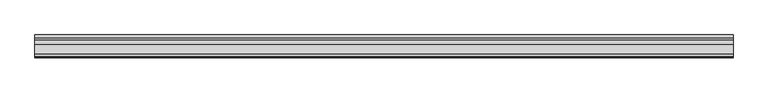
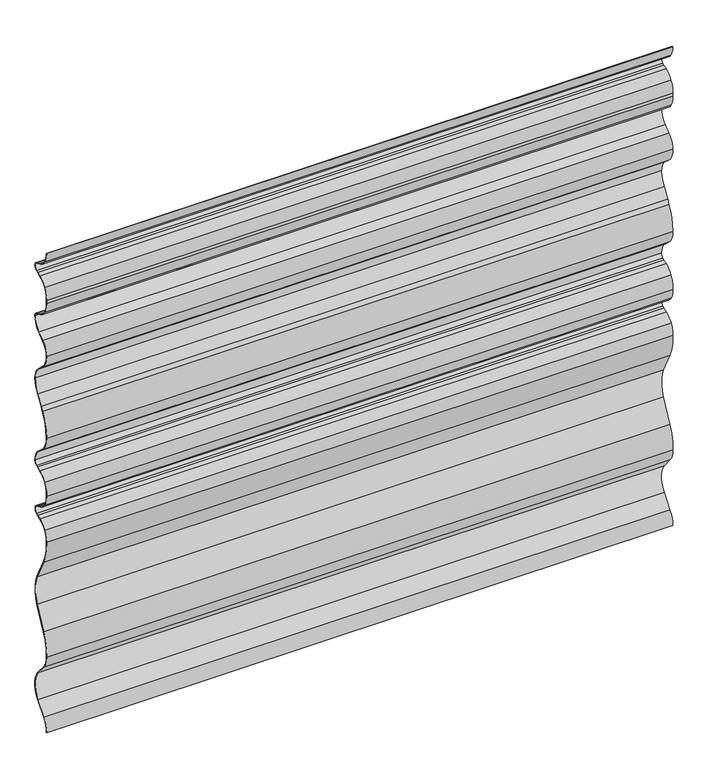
"""IFC4 building model written with IfcOpenShell, lengths in millimetres: plate geometry, Ritmica Horizontal 928 : Ritmica Horizontal 928."""

from ifc_helpers import new_model, si_unit, frame, origin, place, context, project, spatial, polyline, circle_curve, source, transform, mapped, element, save
from ifc_brep_helpers import plane_surface, cylinder_surface, revolved_surface, advanced_brep


def plate_133e5fcb(model_context):
    return source(origin(), model_context, "Body", "AdvancedBrep", [
        advanced_brep(
        [(-573.3333333, 6.5092615, 908.0620129), (-573.3333333, 21.2621067, 895.6153968), (-573.3333333, 28.45755, 892.7364297), (-573.3333333, 31.9226364, 891.0770661), (-573.3333333, 31.9284533, 875.0954695), (-573.3333333, 28.4645758, 873.4335839), (-573.3333333, 21.2712303, 870.5493796), (-573.3333333, 6.5274495, 858.0920274), (-573.3333333, 0.7421798, 836.9983174), (-573.3333333, 0.7421798, 831.6596456), (-573.3333333, 6.5447465, 810.5701527), (-573.3333333, 21.2975918, 798.1235366), (-573.3333333, 28.493035, 795.2445695), (-573.3333333, 31.9581214, 793.5852059), (-573.3333333, 36.9921573, 785.5962388), (-573.3333333, 24.9656186, 760.6206134), (-573.3333333, 12.9828956, 751.0704574), (-573.3333333, 1.0048783, 728.5919745), (-573.3333333, 13.0090533, 701.127971), (-573.3333333, 24.9992939, 690.0241978), (-573.3333333, 37.0440106, 665.0573339), (-573.3333333, 28.6299997, 638.3240963), (-573.3333333, 17.4991449, 620.9910926), (-573.3333333, 13.1043036, 613.5575548), (-573.3333333, 0.921776, 569.3793833), (-573.3333333, 12.9259511, 541.9153798), (-573.3333333, 24.9161915, 530.8116067), (-573.3333333, 36.9609087, 505.8415328), (-573.3333333, 31.9326896, 497.8521133), (-573.3333333, 28.4688119, 496.1902275), (-573.3333333, 21.2754341, 493.3060102), (-573.3333333, 6.5316868, 480.8486726), (-573.3333333, 0.8337564, 457.0856569), (-573.3333333, 6.3430179, 437.5469103), (-573.3333333, 21.0958632, 425.1002943), (-573.3333333, 28.2913064, 422.2213272), (-573.3333333, 31.7563928, 420.5619636), (-573.3333333, 31.7622098, 404.580367), (-573.3333333, 28.2983323, 402.9184814), (-573.3333333, 21.1049867, 400.034277), (-573.3333333, 6.361206, 387.5769248), (-573.3333333, 0.8661693, 368.0341733), (-573.3333333, 10.0476711, 324.2892209), (-573.3333333, 30.4443377, 283.7581494), (-573.3333333, 30.4639577, 229.8542794), (-573.3333333, 10.0968014, 189.3083707), (-573.3333333, 0.9471466, 145.5567461), (-573.3333333, 9.5590077, 121.7925982), (-573.3333333, 28.254799, 99.3683726), (-573.3333333, 28.274038, 46.5109184), (-573.3333333, 9.5945757, 23.7707747), (-573.3333333, 1.0000163, 0.0), (-573.3333333, 1.63e-05, 0.0), (-573.3333333, 8.826039, 24.4105804), (-573.3333333, 27.4885473, 47.1303588), (-573.3333333, 27.4697594, 98.7483605), (-573.3333333, 8.790937, 121.1522332), (-573.3333333, -0.0528427, 145.5386154), (-573.3333333, 9.1993025, 189.7494732), (-573.3333333, 29.5703625, 230.3031531), (-573.3333333, 29.5510695, 283.3086253), (-573.3333333, 9.1504935, 323.8474651), (-573.3333333, -0.133833, 368.0515751), (-573.3333333, 5.5079347, 388.0983921), (-573.3333333, 20.7330524, 400.9625361), (-573.3333333, 27.895533, 403.834365), (-573.3333333, 31.3296428, 405.4819688), (-573.3333333, 31.3244823, 419.6600471), (-573.3333333, 27.889174, 421.3051505), (-573.3333333, 20.7246046, 424.1717647), (-573.3333333, 5.4901265, 437.024822), (-573.3333333, -0.1662181, 457.0529178), (-573.3333333, 5.6750593, 481.3646468), (-573.3333333, 20.9034647, 494.2342551), (-573.3333333, 28.0660127, 497.1061111), (-573.3333333, 31.5001226, 498.7537151), (-573.3333333, 35.9609087, 505.841531), (-573.3333333, 24.2645169, 530.052163), (-573.3333333, 12.2464871, 541.1816709), (-573.3333333, -0.0782183, 569.3680226), (-573.3333333, 12.2502128, 614.0778463), (-573.3333333, 16.6477304, 621.5159109), (-573.3333333, 27.7982686, 638.8795656), (-573.3333333, 36.04401, 665.0587755), (-573.3333333, 24.3475224, 689.2648438), (-573.3333333, 12.3295893, 700.3942621), (-573.3333333, 0.0048783, 728.5916105), (-573.3333333, 12.391292, 751.8777021), (-573.3333333, 24.342358, 761.4026277), (-573.3333333, 35.9921573, 785.5958749), (-573.3333333, 31.5262109, 792.6832895), (-573.3333333, 28.0909026, 794.3283929), (-573.3333333, 20.9248539, 797.1955989), (-573.3333333, 5.6893168, 810.0521734), (-573.3333333, -0.2558769, 831.6592816), (-573.3333333, -0.2578202, 836.9981365), (-573.3333333, 5.6708241, 858.6080051), (-573.3333333, 20.8992959, 871.4776387), (-573.3333333, 28.0617766, 874.3494676), (-573.3333333, 31.4958863, 875.9970713), (-573.3333333, 31.4907258, 890.1751497), (-573.3333333, 28.0554176, 891.8202531), (-573.3333333, 20.8908482, 894.6868673), (-573.3333333, 5.6563701, 907.5399245), (-573.3333333, 0.0, 927.600395), (-573.3333333, 1.0000001, 927.600395), (573.3333333, 6.5092615, 908.0620129), (573.3333333, 1.0000001, 927.600395), (573.3333333, 0.0, 927.600395), (573.3333333, 5.6563701, 907.5399245), (573.3333333, 20.8908482, 894.6868673), (573.3333333, 28.0554176, 891.8202531), (573.3333333, 31.4907258, 890.1751497), (573.3333333, 31.4958863, 875.9970713), (573.3333333, 28.0617766, 874.3494676), (573.3333333, 20.8992959, 871.4776387), (573.3333333, 5.6708241, 858.6080051), (573.3333333, -0.2578202, 836.9981365), (573.3333333, -0.2578202, 831.6596456), (573.3333333, 5.6893168, 810.0521734), (573.3333333, 20.9248539, 797.1955989), (573.3333333, 28.0909026, 794.3283929), (573.3333333, 31.5262109, 792.6832895), (573.3333333, 35.9921573, 785.5958749), (573.3333333, 24.342358, 761.4026277), (573.3333333, 12.391292, 751.8777021), (573.3333333, 0.0048783, 728.5916105), (573.3333333, 12.3295893, 700.3942621), (573.3333333, 24.3475224, 689.2648438), (573.3333333, 36.04401, 665.0587755), (573.3333333, 27.7982686, 638.8795656), (573.3333333, 16.6477304, 621.5159109), (573.3333333, 12.2502128, 614.0778463), (573.3333333, -0.0782183, 569.3680226), (573.3333333, 12.2464871, 541.1816709), (573.3333333, 24.2645169, 530.052163), (573.3333333, 35.9609087, 505.841531), (573.3333333, 31.5001226, 498.7537151), (573.3333333, 28.0660127, 497.1061111), (573.3333333, 20.9034647, 494.2342551), (573.3333333, 5.6750593, 481.3646468), (573.3333333, -0.1662181, 457.0529178), (573.3333333, 5.4901265, 437.024822), (573.3333333, 20.7246046, 424.1717647), (573.3333333, 27.889174, 421.3051505), (573.3333333, 31.3244823, 419.6600471), (573.3333333, 31.3296428, 405.4819688), (573.3333333, 27.895533, 403.834365), (573.3333333, 20.7330524, 400.9625361), (573.3333333, 5.5079347, 388.0983921), (573.3333333, -0.133833, 368.0515751), (573.3333333, 9.1504935, 323.8474651), (573.3333333, 29.5510695, 283.3086253), (573.3333333, 29.5703625, 230.3031531), (573.3333333, 9.1993025, 189.7494732), (573.3333333, -0.0528427, 145.5386154), (573.3333333, 8.790937, 121.1522332), (573.3333333, 27.4697594, 98.7483605), (573.3333333, 27.4885473, 47.1303588), (573.3333333, 8.826039, 24.4105804), (573.3333333, 1.63e-05, 0.0), (573.3333333, 1.0000163, 0.0), (573.3333333, 9.5945757, 23.7707747), (573.3333333, 28.274038, 46.5109184), (573.3333333, 28.254799, 99.3683726), (573.3333333, 9.5590077, 121.7925982), (573.3333333, 0.9471466, 145.5567461), (573.3333333, 10.0968014, 189.3083707), (573.3333333, 30.4639577, 229.8542794), (573.3333333, 30.4443377, 283.7581494), (573.3333333, 10.0476711, 324.2892209), (573.3333333, 0.8661693, 368.0341733), (573.3333333, 6.361206, 387.5769248), (573.3333333, 21.1049867, 400.034277), (573.3333333, 28.2983323, 402.9184814), (573.3333333, 31.7622098, 404.580367), (573.3333333, 31.7563928, 420.5619636), (573.3333333, 28.2913064, 422.2213272), (573.3333333, 21.0958632, 425.1002943), (573.3333333, 6.3430179, 437.5469103), (573.3333333, 0.8337564, 457.0856569), (573.3333333, 6.5316868, 480.8486726), (573.3333333, 21.2754341, 493.3060102), (573.3333333, 28.4688119, 496.1902275), (573.3333333, 31.9326896, 497.8521133), (573.3333333, 36.9609087, 505.8415328), (573.3333333, 24.9161915, 530.8116067), (573.3333333, 12.9259511, 541.9153798), (573.3333333, 0.921776, 569.3793833), (573.3333333, 13.1043036, 613.5575548), (573.3333333, 17.4991449, 620.9910926), (573.3333333, 28.6299997, 638.3240963), (573.3333333, 37.0440106, 665.0573339), (573.3333333, 24.9992939, 690.0241978), (573.3333333, 13.0090533, 701.127971), (573.3333333, 1.0048783, 728.5919745), (573.3333333, 12.9828956, 751.0704574), (573.3333333, 24.9656186, 760.6206134), (573.3333333, 36.9921573, 785.5962388), (573.3333333, 31.9581214, 793.5852059), (573.3333333, 28.493035, 795.2445695), (573.3333333, 21.2975918, 798.1235366), (573.3333333, 6.5447465, 810.5701527), (573.3333333, 0.744123, 831.6596456), (573.3333333, 0.7421798, 836.9983174), (573.3333333, 6.5274495, 858.0920274), (573.3333333, 21.2712303, 870.5493796), (573.3333333, 28.4645758, 873.4335839), (573.3333333, 31.9284533, 875.0954695), (573.3333333, 31.9226364, 891.0770661), (573.3333333, 28.45755, 892.7364297), (573.3333333, 21.2621067, 895.6153968)],
        [
            (0, 1, circle_curve(frame((-573.3333333, 32.6219637, 924.0466233), z_axis=(1.0, 0.0, 0.0), x_axis=(0.0, 0.0, 1.0)), 30.6166783)),
            (1, 2),
            (2, 3),
            (3, 4, circle_curve(frame((-573.3333333, 28.0953282, 883.0848737), z_axis=(-1.0, 0.0, 0.0), x_axis=(0.0, 0.0, 1.0)), 8.8613445)),
            (4, 5),
            (5, 6),
            (6, 7, circle_curve(frame((-573.3333333, 32.651781, 842.1264302), z_axis=(1.0, 0.0, 0.0), x_axis=(0.0, 0.0, 1.0)), 30.6166783)),
            (7, 8, circle_curve(frame((-573.3333333, 42.034972, 837.0133472), z_axis=(1.0, 0.0, 0.0), x_axis=(0.0, 0.0, 1.0)), 41.2927949)),
            (8, 9),
            (9, 10, circle_curve(frame((-573.3333333, 42.0369151, 831.6746753), z_axis=(1.0, 0.0, 0.0), x_axis=(0.0, 0.0, 1.0)), 41.2927949)),
            (10, 11, circle_curve(frame((-573.3333333, 32.8606059, 826.7955631), z_axis=(1.0, 0.0, 0.0), x_axis=(0.0, 0.0, 1.0)), 30.9158276)),
            (11, 12),
            (12, 13),
            (13, 14, circle_curve(frame((-573.3333333, 28.1308133, 785.5930135), z_axis=(-1.0, 0.0, 0.0), x_axis=(0.0, 0.0, 1.0)), 8.8613445)),
            (14, 15, circle_curve(frame((-573.3333333, 5.0694602, 785.5846196), z_axis=(-1.0, 0.0, 0.0), x_axis=(0.0, 0.0, 1.0)), 31.9226992)),
            (15, 16),
            (16, 17, circle_curve(frame((-573.3333333, 28.0674647, 728.6018247), z_axis=(1.0, 0.0, 0.0), x_axis=(0.0, 0.0, 1.0)), 27.0625882)),
            (17, 18, circle_curve(frame((-573.3333333, 38.4552002, 728.6056057), z_axis=(1.0, 0.0, 0.0), x_axis=(0.0, 0.0, 1.0)), 37.4503244)),
            (18, 19),
            (19, 20, circle_curve(frame((-573.3333333, 5.1213136, 665.0457146), z_axis=(-1.0, 0.0, 0.0), x_axis=(0.0, 0.0, 1.0)), 31.9226992)),
            (20, 21, circle_curve(frame((-573.3333333, -10.1198118, 665.2109304), z_axis=(-1.0, 0.0, 0.0), x_axis=(0.0, 0.0, 1.0)), 47.1640725)),
            (21, 22),
            (22, 23),
            (23, 24, circle_curve(frame((-573.3333333, 80.6713796, 571.1565204), z_axis=(1.0, 0.0, 0.0), x_axis=(0.0, 0.0, 1.0)), 79.769402)),
            (24, 25, circle_curve(frame((-573.3333333, 38.372098, 569.3930144), z_axis=(1.0, 0.0, 0.0), x_axis=(0.0, 0.0, 1.0)), 37.4503244)),
            (25, 26),
            (26, 27, circle_curve(frame((-573.3333333, 5.0555271, 505.8414768), z_axis=(-1.0, 0.0, 0.0), x_axis=(0.0, 0.0, 1.0)), 31.9053816)),
            (27, 28, circle_curve(frame((-573.3333333, 28.0995643, 505.8415173), z_axis=(-1.0, 0.0, 0.0), x_axis=(0.0, 0.0, 1.0)), 8.8613444)),
            (28, 29),
            (29, 30),
            (30, 31, circle_curve(frame((-573.3333333, 32.6560172, 464.8830737), z_axis=(1.0, 0.0, 0.0), x_axis=(0.0, 0.0, 1.0)), 30.6166783)),
            (31, 32, circle_curve(frame((-573.3333333, 42.0392082, 459.7699907), z_axis=(1.0, 0.0, 0.0), x_axis=(0.0, 0.0, 1.0)), 41.2927948)),
            (32, 33, circle_curve(frame((-573.3333333, 38.2840783, 457.0992876), z_axis=(1.0, 0.0, 0.0), x_axis=(0.0, 0.0, 1.0)), 37.4503244)),
            (33, 34, circle_curve(frame((-573.3333333, 32.4557202, 453.5315208), z_axis=(1.0, 0.0, 0.0), x_axis=(0.0, 0.0, 1.0)), 30.6166783)),
            (34, 35),
            (35, 36),
            (36, 37, circle_curve(frame((-573.3333333, 27.9290847, 412.5697711), z_axis=(-1.0, 0.0, 0.0), x_axis=(0.0, 0.0, 1.0)), 8.8613445)),
            (37, 38),
            (38, 39),
            (39, 40, circle_curve(frame((-573.3333333, 32.4855375, 371.6113276), z_axis=(1.0, 0.0, 0.0), x_axis=(0.0, 0.0, 1.0)), 30.6166783)),
            (40, 41, circle_curve(frame((-573.3333333, 38.3164913, 368.0478045), z_axis=(1.0, 0.0, 0.0), x_axis=(0.0, 0.0, 1.0)), 37.4503244)),
            (41, 42, circle_curve(frame((-573.3333333, 94.1023268, 364.7672254), z_axis=(1.0, 0.0, 0.0), x_axis=(0.0, 0.0, 1.0)), 93.293376)),
            (42, 43),
            (43, 44, circle_curve(frame((-573.3333333, -23.1517542, 256.7867029), z_axis=(-1.0, 0.0, 0.0), x_axis=(0.0, 0.0, 1.0)), 60.0)),
            (44, 45),
            (45, 46, circle_curve(frame((-573.3333333, 94.1809012, 148.8915653), z_axis=(1.0, 0.0, 0.0), x_axis=(0.0, 0.0, 1.0)), 93.293376)),
            (46, 47, circle_curve(frame((-573.3333333, 38.0785645, 145.5702612), z_axis=(1.0, 0.0, 0.0), x_axis=(0.0, 0.0, 1.0)), 37.1314203)),
            (47, 48),
            (48, 49, circle_curve(frame((-573.3333333, -7.0897542, 72.9267773), z_axis=(-1.0, 0.0, 0.0), x_axis=(0.0, 0.0, 1.0)), 44.1406321)),
            (49, 50),
            (50, 51, circle_curve(frame((-573.3333333, 38.131434, 0.0138791), z_axis=(1.0, 0.0, 0.0), x_axis=(0.0, 0.0, 1.0)), 37.1314203)),
            (51, 52),
            (52, 53, circle_curve(frame((-573.3333333, 38.131434, 0.0138791), z_axis=(-1.0, 0.0, 0.0), x_axis=(0.0, 0.0, 1.0)), 38.1314203)),
            (53, 54),
            (54, 55, circle_curve(frame((-573.3333333, -7.0897542, 72.9267773), z_axis=(1.0, 0.0, 0.0), x_axis=(0.0, 0.0, 1.0)), 43.1406321)),
            (55, 56),
            (56, 57, circle_curve(frame((-573.3333333, 38.0785645, 145.5702612), z_axis=(-1.0, 0.0, 0.0), x_axis=(0.0, 0.0, 1.0)), 38.1314203)),
            (57, 58, circle_curve(frame((-573.3333333, 94.1809012, 148.8915653), z_axis=(-1.0, 0.0, 0.0), x_axis=(0.0, 0.0, 1.0)), 94.293376)),
            (58, 59),
            (59, 60, circle_curve(frame((-573.3333333, -23.1517542, 256.7867029), z_axis=(1.0, 0.0, 0.0), x_axis=(0.0, 0.0, 1.0)), 59.0)),
            (60, 61),
            (61, 62, circle_curve(frame((-573.3333333, 94.1023268, 364.7672254), z_axis=(-1.0, 0.0, 0.0), x_axis=(0.0, 0.0, 1.0)), 94.293376)),
            (62, 63, circle_curve(frame((-573.3333333, 38.3164913, 368.0478045), z_axis=(-1.0, 0.0, 0.0), x_axis=(0.0, 0.0, 1.0)), 38.4503244)),
            (63, 64, circle_curve(frame((-573.3333333, 32.4855375, 371.6113276), z_axis=(-1.0, 0.0, 0.0), x_axis=(0.0, 0.0, 1.0)), 31.6166783)),
            (64, 65),
            (65, 66),
            (66, 67, circle_curve(frame((-573.3333333, 27.9290847, 412.5697711), z_axis=(1.0, 0.0, 0.0), x_axis=(0.0, 0.0, 1.0)), 7.8613445)),
            (67, 68),
            (68, 69),
            (69, 70, circle_curve(frame((-573.3333333, 32.4557202, 453.5315208), z_axis=(-1.0, 0.0, 0.0), x_axis=(0.0, 0.0, 1.0)), 31.6166783)),
            (70, 71, circle_curve(frame((-573.3333333, 38.2840783, 457.0992876), z_axis=(-1.0, 0.0, 0.0), x_axis=(0.0, 0.0, 1.0)), 38.4503244)),
            (71, 72, circle_curve(frame((-573.3333333, 42.0392082, 459.7699907), z_axis=(-1.0, 0.0, 0.0), x_axis=(0.0, 0.0, 1.0)), 42.2927948)),
            (72, 73, circle_curve(frame((-573.3333333, 32.6560172, 464.8830737), z_axis=(-1.0, 0.0, 0.0), x_axis=(0.0, 0.0, 1.0)), 31.6166782)),
            (73, 74),
            (74, 75),
            (75, 76, circle_curve(frame((-573.3333333, 28.0995643, 505.8415173), z_axis=(1.0, 0.0, 0.0), x_axis=(0.0, 0.0, 1.0)), 7.8613444)),
            (76, 77, circle_curve(frame((-573.3333333, 5.0555271, 505.8414768), z_axis=(1.0, 0.0, 0.0), x_axis=(0.0, 0.0, 1.0)), 30.9053816)),
            (77, 78),
            (78, 79, circle_curve(frame((-573.3333333, 38.372098, 569.3930144), z_axis=(-1.0, 0.0, 0.0), x_axis=(0.0, 0.0, 1.0)), 38.4503244)),
            (79, 80, circle_curve(frame((-573.3333333, 80.6713796, 571.1565204), z_axis=(-1.0, 0.0, 0.0), x_axis=(0.0, 0.0, 1.0)), 80.769402)),
            (80, 81),
            (81, 82),
            (82, 83, circle_curve(frame((-573.3333333, -10.1198118, 665.2109304), z_axis=(1.0, 0.0, 0.0), x_axis=(0.0, 0.0, 1.0)), 46.1640725)),
            (83, 84, circle_curve(frame((-573.3333333, 5.1213136, 665.0457146), z_axis=(1.0, 0.0, 0.0), x_axis=(0.0, 0.0, 1.0)), 30.9226992)),
            (84, 85),
            (85, 86, circle_curve(frame((-573.3333333, 38.4552002, 728.6056057), z_axis=(-1.0, 0.0, 0.0), x_axis=(0.0, 0.0, 1.0)), 38.4503244)),
            (86, 87, circle_curve(frame((-573.3333333, 28.0674647, 728.6018247), z_axis=(-1.0, 0.0, 0.0), x_axis=(0.0, 0.0, 1.0)), 28.0625882)),
            (87, 88),
            (88, 89, circle_curve(frame((-573.3333333, 5.0694602, 785.5846196), z_axis=(1.0, 0.0, 0.0), x_axis=(0.0, 0.0, 1.0)), 30.9226992)),
            (89, 90, circle_curve(frame((-573.3333333, 28.1308133, 785.5930135), z_axis=(1.0, 0.0, 0.0), x_axis=(0.0, 0.0, 1.0)), 7.8613445)),
            (90, 91),
            (91, 92),
            (92, 93, circle_curve(frame((-573.3333333, 32.8606059, 826.7955631), z_axis=(-1.0, 0.0, 0.0), x_axis=(0.0, 0.0, 1.0)), 31.9158276)),
            (93, 94, circle_curve(frame((-573.3333333, 42.0369151, 831.6746753), z_axis=(-1.0, 0.0, 0.0), x_axis=(0.0, 0.0, 1.0)), 42.2927949)),
            (94, 95),
            (95, 96, circle_curve(frame((-573.3333333, 42.034972, 837.0133472), z_axis=(-1.0, 0.0, 0.0), x_axis=(0.0, 0.0, 1.0)), 42.2927949)),
            (96, 97, circle_curve(frame((-573.3333333, 32.651781, 842.1264302), z_axis=(-1.0, 0.0, 0.0), x_axis=(0.0, 0.0, 1.0)), 31.6166783)),
            (97, 98),
            (98, 99),
            (99, 100, circle_curve(frame((-573.3333333, 28.0953282, 883.0848737), z_axis=(1.0, 0.0, 0.0), x_axis=(0.0, 0.0, 1.0)), 7.8613445)),
            (100, 101),
            (101, 102),
            (102, 103, circle_curve(frame((-573.3333333, 32.6219637, 924.0466233), z_axis=(-1.0, 0.0, 0.0), x_axis=(0.0, 0.0, 1.0)), 31.6166783)),
            (103, 104, circle_curve(frame((-573.3333333, 38.4503219, 927.6143902), z_axis=(-1.0, 0.0, 0.0), x_axis=(0.0, 0.0, 1.0)), 38.4503244)),
            (104, 105),
            (105, 0, circle_curve(frame((-573.3333333, 38.4503219, 927.6143902), z_axis=(1.0, 0.0, 0.0), x_axis=(0.0, 0.0, 1.0)), 37.4503244)),
            (106, 107, circle_curve(frame((573.3333333, 38.4503219, 927.6143902), z_axis=(-1.0, 0.0, 0.0), x_axis=(0.0, 0.0, 1.0)), 37.4503244)),
            (107, 108),
            (108, 109, circle_curve(frame((573.3333333, 38.4503219, 927.6143902), z_axis=(1.0, 0.0, 0.0), x_axis=(0.0, 0.0, 1.0)), 38.4503244)),
            (109, 110, circle_curve(frame((573.3333333, 32.6219637, 924.0466233), z_axis=(1.0, 0.0, 0.0), x_axis=(0.0, 0.0, 1.0)), 31.6166783)),
            (110, 111),
            (111, 112),
            (112, 113, circle_curve(frame((573.3333333, 28.0953282, 883.0848737), z_axis=(-1.0, 0.0, 0.0), x_axis=(0.0, 0.0, 1.0)), 7.8613445)),
            (113, 114),
            (114, 115),
            (115, 116, circle_curve(frame((573.3333333, 32.651781, 842.1264302), z_axis=(1.0, 0.0, 0.0), x_axis=(0.0, 0.0, 1.0)), 31.6166783)),
            (116, 117, circle_curve(frame((573.3333333, 42.034972, 837.0133472), z_axis=(1.0, 0.0, 0.0), x_axis=(0.0, 0.0, 1.0)), 42.2927949)),
            (117, 118),
            (118, 119, circle_curve(frame((573.3333333, 42.0369151, 831.6746753), z_axis=(1.0, 0.0, 0.0), x_axis=(0.0, 0.0, 1.0)), 42.2927949)),
            (119, 120, circle_curve(frame((573.3333333, 32.8606059, 826.7955631), z_axis=(1.0, 0.0, 0.0), x_axis=(0.0, 0.0, 1.0)), 31.9158276)),
            (120, 121),
            (121, 122),
            (122, 123, circle_curve(frame((573.3333333, 28.1308133, 785.5930135), z_axis=(-1.0, 0.0, 0.0), x_axis=(0.0, 0.0, 1.0)), 7.8613445)),
            (123, 124, circle_curve(frame((573.3333333, 5.0694602, 785.5846196), z_axis=(-1.0, 0.0, 0.0), x_axis=(0.0, 0.0, 1.0)), 30.9226992)),
            (124, 125),
            (125, 126, circle_curve(frame((573.3333333, 28.0674647, 728.6018247), z_axis=(1.0, 0.0, 0.0), x_axis=(0.0, 0.0, 1.0)), 28.0625882)),
            (126, 127, circle_curve(frame((573.3333333, 38.4552002, 728.6056057), z_axis=(1.0, 0.0, 0.0), x_axis=(0.0, 0.0, 1.0)), 38.4503244)),
            (127, 128),
            (128, 129, circle_curve(frame((573.3333333, 5.1213136, 665.0457146), z_axis=(-1.0, 0.0, 0.0), x_axis=(0.0, 0.0, 1.0)), 30.9226992)),
            (129, 130, circle_curve(frame((573.3333333, -10.1198118, 665.2109304), z_axis=(-1.0, 0.0, 0.0), x_axis=(0.0, 0.0, 1.0)), 46.1640725)),
            (130, 131),
            (131, 132),
            (132, 133, circle_curve(frame((573.3333333, 80.6713796, 571.1565204), z_axis=(1.0, 0.0, 0.0), x_axis=(0.0, 0.0, 1.0)), 80.769402)),
            (133, 134, circle_curve(frame((573.3333333, 38.372098, 569.3930144), z_axis=(1.0, 0.0, 0.0), x_axis=(0.0, 0.0, 1.0)), 38.4503244)),
            (134, 135),
            (135, 136, circle_curve(frame((573.3333333, 5.0555271, 505.8414768), z_axis=(-1.0, 0.0, 0.0), x_axis=(0.0, 0.0, 1.0)), 30.9053816)),
            (136, 137, circle_curve(frame((573.3333333, 28.0995643, 505.8415173), z_axis=(-1.0, 0.0, 0.0), x_axis=(0.0, 0.0, 1.0)), 7.8613444)),
            (137, 138),
            (138, 139),
            (139, 140, circle_curve(frame((573.3333333, 32.6560172, 464.8830737), z_axis=(1.0, 0.0, 0.0), x_axis=(0.0, 0.0, 1.0)), 31.6166782)),
            (140, 141, circle_curve(frame((573.3333333, 42.0392082, 459.7699907), z_axis=(1.0, 0.0, 0.0), x_axis=(0.0, 0.0, 1.0)), 42.2927948)),
            (141, 142, circle_curve(frame((573.3333333, 38.2840783, 457.0992876), z_axis=(1.0, 0.0, 0.0), x_axis=(0.0, 0.0, 1.0)), 38.4503244)),
            (142, 143, circle_curve(frame((573.3333333, 32.4557202, 453.5315208), z_axis=(1.0, 0.0, 0.0), x_axis=(0.0, 0.0, 1.0)), 31.6166783)),
            (143, 144),
            (144, 145),
            (145, 146, circle_curve(frame((573.3333333, 27.9290847, 412.5697711), z_axis=(-1.0, 0.0, 0.0), x_axis=(0.0, 0.0, 1.0)), 7.8613445)),
            (146, 147),
            (147, 148),
            (148, 149, circle_curve(frame((573.3333333, 32.4855375, 371.6113276), z_axis=(1.0, 0.0, 0.0), x_axis=(0.0, 0.0, 1.0)), 31.6166783)),
            (149, 150, circle_curve(frame((573.3333333, 38.3164913, 368.0478045), z_axis=(1.0, 0.0, 0.0), x_axis=(0.0, 0.0, 1.0)), 38.4503244)),
            (150, 151, circle_curve(frame((573.3333333, 94.1023268, 364.7672254), z_axis=(1.0, 0.0, 0.0), x_axis=(0.0, 0.0, 1.0)), 94.293376)),
            (151, 152),
            (152, 153, circle_curve(frame((573.3333333, -23.1517542, 256.7867029), z_axis=(-1.0, 0.0, 0.0), x_axis=(0.0, 0.0, 1.0)), 59.0)),
            (153, 154),
            (154, 155, circle_curve(frame((573.3333333, 94.1809012, 148.8915653), z_axis=(1.0, 0.0, 0.0), x_axis=(0.0, 0.0, 1.0)), 94.293376)),
            (155, 156, circle_curve(frame((573.3333333, 38.0785645, 145.5702612), z_axis=(1.0, 0.0, 0.0), x_axis=(0.0, 0.0, 1.0)), 38.1314203)),
            (156, 157),
            (157, 158, circle_curve(frame((573.3333333, -7.0897542, 72.9267773), z_axis=(-1.0, 0.0, 0.0), x_axis=(0.0, 0.0, 1.0)), 43.1406321)),
            (158, 159),
            (159, 160, circle_curve(frame((573.3333333, 38.131434, 0.0138791), z_axis=(1.0, 0.0, 0.0), x_axis=(0.0, 0.0, 1.0)), 38.1314203)),
            (160, 161),
            (161, 162, circle_curve(frame((573.3333333, 38.131434, 0.0138791), z_axis=(-1.0, 0.0, 0.0), x_axis=(0.0, 0.0, 1.0)), 37.1314203)),
            (162, 163),
            (163, 164, circle_curve(frame((573.3333333, -7.0897542, 72.9267773), z_axis=(1.0, 0.0, 0.0), x_axis=(0.0, 0.0, 1.0)), 44.1406321)),
            (164, 165),
            (165, 166, circle_curve(frame((573.3333333, 38.0785645, 145.5702612), z_axis=(-1.0, 0.0, 0.0), x_axis=(0.0, 0.0, 1.0)), 37.1314203)),
            (166, 167, circle_curve(frame((573.3333333, 94.1809012, 148.8915653), z_axis=(-1.0, 0.0, 0.0), x_axis=(0.0, 0.0, 1.0)), 93.293376)),
            (167, 168),
            (168, 169, circle_curve(frame((573.3333333, -23.1517542, 256.7867029), z_axis=(1.0, 0.0, 0.0), x_axis=(0.0, 0.0, 1.0)), 60.0)),
            (169, 170),
            (170, 171, circle_curve(frame((573.3333333, 94.1023268, 364.7672254), z_axis=(-1.0, 0.0, 0.0), x_axis=(0.0, 0.0, 1.0)), 93.293376)),
            (171, 172, circle_curve(frame((573.3333333, 38.3164913, 368.0478045), z_axis=(-1.0, 0.0, 0.0), x_axis=(0.0, 0.0, 1.0)), 37.4503244)),
            (172, 173, circle_curve(frame((573.3333333, 32.4855375, 371.6113276), z_axis=(-1.0, 0.0, 0.0), x_axis=(0.0, 0.0, 1.0)), 30.6166783)),
            (173, 174),
            (174, 175),
            (175, 176, circle_curve(frame((573.3333333, 27.9290847, 412.5697711), z_axis=(1.0, 0.0, 0.0), x_axis=(0.0, 0.0, 1.0)), 8.8613445)),
            (176, 177),
            (177, 178),
            (178, 179, circle_curve(frame((573.3333333, 32.4557202, 453.5315208), z_axis=(-1.0, 0.0, 0.0), x_axis=(0.0, 0.0, 1.0)), 30.6166783)),
            (179, 180, circle_curve(frame((573.3333333, 38.2840783, 457.0992876), z_axis=(-1.0, 0.0, 0.0), x_axis=(0.0, 0.0, 1.0)), 37.4503244)),
            (180, 181, circle_curve(frame((573.3333333, 42.0392082, 459.7699907), z_axis=(-1.0, 0.0, 0.0), x_axis=(0.0, 0.0, 1.0)), 41.2927948)),
            (181, 182, circle_curve(frame((573.3333333, 32.6560172, 464.8830737), z_axis=(-1.0, 0.0, 0.0), x_axis=(0.0, 0.0, 1.0)), 30.6166783)),
            (182, 183),
            (183, 184),
            (184, 185, circle_curve(frame((573.3333333, 28.0995643, 505.8415173), z_axis=(1.0, 0.0, 0.0), x_axis=(0.0, 0.0, 1.0)), 8.8613444)),
            (185, 186, circle_curve(frame((573.3333333, 5.0555271, 505.8414768), z_axis=(1.0, 0.0, 0.0), x_axis=(0.0, 0.0, 1.0)), 31.9053816)),
            (186, 187),
            (187, 188, circle_curve(frame((573.3333333, 38.372098, 569.3930144), z_axis=(-1.0, 0.0, 0.0), x_axis=(0.0, 0.0, 1.0)), 37.4503244)),
            (188, 189, circle_curve(frame((573.3333333, 80.6713796, 571.1565204), z_axis=(-1.0, 0.0, 0.0), x_axis=(0.0, 0.0, 1.0)), 79.769402)),
            (189, 190),
            (190, 191),
            (191, 192, circle_curve(frame((573.3333333, -10.1198118, 665.2109304), z_axis=(1.0, 0.0, 0.0), x_axis=(0.0, 0.0, 1.0)), 47.1640725)),
            (192, 193, circle_curve(frame((573.3333333, 5.1213136, 665.0457146), z_axis=(1.0, 0.0, 0.0), x_axis=(0.0, 0.0, 1.0)), 31.9226992)),
            (193, 194),
            (194, 195, circle_curve(frame((573.3333333, 38.4552002, 728.6056057), z_axis=(-1.0, 0.0, 0.0), x_axis=(0.0, 0.0, 1.0)), 37.4503244)),
            (195, 196, circle_curve(frame((573.3333333, 28.0674647, 728.6018247), z_axis=(-1.0, 0.0, 0.0), x_axis=(0.0, 0.0, 1.0)), 27.0625882)),
            (196, 197),
            (197, 198, circle_curve(frame((573.3333333, 5.0694602, 785.5846196), z_axis=(1.0, 0.0, 0.0), x_axis=(0.0, 0.0, 1.0)), 31.9226992)),
            (198, 199, circle_curve(frame((573.3333333, 28.1308133, 785.5930135), z_axis=(1.0, 0.0, 0.0), x_axis=(0.0, 0.0, 1.0)), 8.8613445)),
            (199, 200),
            (200, 201),
            (201, 202, circle_curve(frame((573.3333333, 32.8606059, 826.7955631), z_axis=(-1.0, 0.0, 0.0), x_axis=(0.0, 0.0, 1.0)), 30.9158276)),
            (202, 203, circle_curve(frame((573.3333333, 42.0369151, 831.6746753), z_axis=(-1.0, 0.0, 0.0), x_axis=(0.0, 0.0, 1.0)), 41.2927949)),
            (203, 204),
            (204, 205, circle_curve(frame((573.3333333, 42.034972, 837.0133472), z_axis=(-1.0, 0.0, 0.0), x_axis=(0.0, 0.0, 1.0)), 41.2927949)),
            (205, 206, circle_curve(frame((573.3333333, 32.651781, 842.1264302), z_axis=(-1.0, 0.0, 0.0), x_axis=(0.0, 0.0, 1.0)), 30.6166783)),
            (206, 207),
            (207, 208),
            (208, 209, circle_curve(frame((573.3333333, 28.0953282, 883.0848737), z_axis=(1.0, 0.0, 0.0), x_axis=(0.0, 0.0, 1.0)), 8.8613445)),
            (209, 210),
            (210, 211),
            (211, 106, circle_curve(frame((573.3333333, 32.6219637, 924.0466233), z_axis=(-1.0, 0.0, 0.0), x_axis=(0.0, 0.0, 1.0)), 30.6166783)),
            (0, 106),
            (211, 1),
            (210, 2),
            (209, 3),
            (208, 4),
            (207, 5),
            (206, 6),
            (205, 7),
            (204, 8),
            (203, 9),
            (202, 10),
            (201, 11),
            (200, 12),
            (199, 13),
            (198, 14),
            (197, 15),
            (196, 16),
            (195, 17),
            (194, 18),
            (193, 19),
            (192, 20),
            (191, 21),
            (190, 22),
            (189, 23),
            (188, 24),
            (187, 25),
            (186, 26),
            (185, 27),
            (184, 28),
            (183, 29),
            (182, 30),
            (181, 31),
            (180, 32),
            (179, 33),
            (178, 34),
            (177, 35),
            (176, 36),
            (175, 37),
            (174, 38),
            (173, 39),
            (172, 40),
            (171, 41),
            (170, 42),
            (169, 43),
            (168, 44),
            (167, 45),
            (166, 46),
            (165, 47),
            (164, 48),
            (163, 49),
            (162, 50),
            (161, 51),
            (160, 52),
            (159, 53),
            (158, 54),
            (157, 55),
            (156, 56),
            (155, 57),
            (154, 58),
            (153, 59),
            (152, 60),
            (151, 61),
            (150, 62),
            (149, 63),
            (148, 64),
            (147, 65),
            (146, 66),
            (145, 67),
            (144, 68),
            (143, 69),
            (142, 70),
            (141, 71),
            (140, 72),
            (139, 73),
            (138, 74),
            (137, 75),
            (136, 76),
            (135, 77),
            (134, 78),
            (133, 79),
            (132, 80),
            (131, 81),
            (130, 82),
            (129, 83),
            (128, 84),
            (127, 85),
            (126, 86),
            (125, 87),
            (124, 88),
            (123, 89),
            (122, 90),
            (121, 91),
            (120, 92),
            (119, 93),
            (118, 94),
            (117, 95),
            (116, 96),
            (115, 97),
            (114, 98),
            (113, 99),
            (112, 100),
            (111, 101),
            (110, 102),
            (109, 103),
            (108, 104),
            (107, 105),
        ],
        [
            plane_surface(frame((-573.3333333, 32.6219637, 954.6633016), z_axis=(-1.0, 0.0, 0.0), x_axis=(0.0, -1.0, 0.0))),
            plane_surface(frame((573.3333333, 32.6219637, 954.6633016), z_axis=(1.0, 0.0, 0.0), x_axis=(0.0, 1.0, 0.0))),
            revolved_surface(polyline([(573.3333333, 32.6219637, 954.6633016), (-573.3333333, 32.6219637, 954.6633016)]), (573.3333333, 32.6219637, 924.0466233), (1.0, 0.0, 0.0)),
            plane_surface(frame((-573.3333333, 21.2621067, 895.6153968), z_axis=(0.0, 0.3714785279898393, 0.9284415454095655), x_axis=(1.0, 0.0, 0.0))),
            plane_surface(frame((-573.3333333, 28.45755, 892.7364297), z_axis=(0.0, 0.43191054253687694, 0.9019164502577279), x_axis=(1.0, 0.0, 0.0))),
            cylinder_surface(frame((573.3333333, 28.0953282, 883.0848737), z_axis=(-1.0, 0.0, 0.0), x_axis=(0.0, 0.0, 1.0)), 8.8613445),
            plane_surface(frame((-573.3333333, 31.9284533, 875.0954695), z_axis=(0.0, 0.43256698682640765, -0.9016017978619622), x_axis=(1.0, 0.0, 0.0))),
            plane_surface(frame((-573.3333333, 28.4645758, 873.4335839), z_axis=(0.0, 0.3721542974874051, -0.928170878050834), x_axis=(1.0, 0.0, 0.0))),
            revolved_surface(polyline([(573.3333333, 32.651781, 872.7431085), (-573.3333333, 32.651781, 872.7431085)]), (573.3333333, 32.651781, 842.1264302), (1.0, 0.0, 0.0)),
            revolved_surface(polyline([(573.3333333, 42.034972, 878.3061421), (-573.3333333, 42.034972, 878.3061421)]), (573.3333333, 42.034972, 837.0133472), (1.0, 0.0, 0.0)),
            plane_surface(frame((-573.3333333, 0.7421798, 836.9983174), z_axis=(0.0, 1.0, 0.0), x_axis=(1.0, 0.0, 0.0))),
            revolved_surface(polyline([(573.3333333, 42.0369151, 872.9674702), (-573.3333333, 42.0369151, 872.9674702)]), (573.3333333, 42.0369151, 831.6746753), (1.0, 0.0, 0.0)),
            revolved_surface(polyline([(573.3333333, 32.8606059, 857.7113907), (-573.3333333, 32.8606059, 857.7113907)]), (573.3333333, 32.8606059, 826.7955631), (1.0, 0.0, 0.0)),
            plane_surface(frame((-573.3333333, 21.2975918, 798.1235366), z_axis=(0.0, 0.3714785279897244, 0.9284415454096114), x_axis=(1.0, 0.0, 0.0))),
            plane_surface(frame((-573.3333333, 28.493035, 795.2445695), z_axis=(0.0, 0.4319105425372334, 0.9019164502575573), x_axis=(1.0, 0.0, 0.0))),
            cylinder_surface(frame((573.3333333, 28.1308133, 785.5930135), z_axis=(-1.0, 0.0, 0.0), x_axis=(0.0, 0.0, 1.0)), 8.8613445),
            cylinder_surface(frame((573.3333333, 5.0694602, 785.5846196), z_axis=(-1.0, 0.0, 0.0), x_axis=(0.0, 0.0, 1.0)), 31.9226992),
            plane_surface(frame((-573.3333333, 24.9656186, 760.6206134), z_axis=(0.0, 0.6232605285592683, -0.7820142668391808), x_axis=(1.0, 0.0, 0.0))),
            revolved_surface(polyline([(573.3333333, 28.0674647, 755.6644129), (-573.3333333, 28.0674647, 755.6644129)]), (573.3333333, 28.0674647, 728.6018247), (1.0, 0.0, 0.0)),
            revolved_surface(polyline([(573.3333333, 38.4552002, 766.0559301), (-573.3333333, 38.4552002, 766.0559301)]), (573.3333333, 38.4552002, 728.6056057), (1.0, 0.0, 0.0)),
            plane_surface(frame((-573.3333333, 13.0090533, 701.127971), z_axis=(0.0, 0.6794639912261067, 0.7337088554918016), x_axis=(1.0, 0.0, 0.0))),
            cylinder_surface(frame((573.3333333, 5.1213136, 665.0457146), z_axis=(-1.0, 0.0, 0.0), x_axis=(0.0, 0.0, 1.0)), 31.9226992),
            cylinder_surface(frame((573.3333333, -10.1198118, 665.2109304), z_axis=(-1.0, 0.0, 0.0), x_axis=(0.0, 0.0, 1.0)), 47.1640725),
            plane_surface(frame((-573.3333333, 28.6299997, 638.3240963), z_axis=(0.0, 0.8414387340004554, -0.5403525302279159), x_axis=(1.0, 0.0, 0.0))),
            plane_surface(frame((-573.3333333, 17.4991449, 620.9910926), z_axis=(0.0, 0.8608100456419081, -0.5089263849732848), x_axis=(1.0, 0.0, 0.0))),
            revolved_surface(polyline([(573.3333333, 80.6713796, 650.9259224), (-573.3333333, 80.6713796, 650.9259224)]), (573.3333333, 80.6713796, 571.1565204), (1.0, 0.0, 0.0)),
            revolved_surface(polyline([(573.3333333, 38.372098, 606.8433388), (-573.3333333, 38.372098, 606.8433388)]), (573.3333333, 38.372098, 569.3930144), (1.0, 0.0, 0.0)),
            plane_surface(frame((-573.3333333, 12.9259511, 541.9153798), z_axis=(0.0, 0.6794639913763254, 0.7337088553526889), x_axis=(1.0, 0.0, 0.0))),
            cylinder_surface(frame((573.3333333, 5.0555271, 505.8414768), z_axis=(-1.0, 0.0, 0.0), x_axis=(0.0, 0.0, 1.0)), 31.9053816),
            cylinder_surface(frame((573.3333333, 28.0995643, 505.8415173), z_axis=(-1.0, 0.0, 0.0), x_axis=(0.0, 0.0, 1.0)), 8.8613444),
            plane_surface(frame((-573.3333333, 31.9326896, 497.8521133), z_axis=(0.0, 0.43256701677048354, -0.9016017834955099), x_axis=(1.0, 0.0, 0.0))),
            plane_surface(frame((-573.3333333, 28.4688119, 496.1902275), z_axis=(0.0, 0.37215430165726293, -0.9281708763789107), x_axis=(1.0, 0.0, 0.0))),
            revolved_surface(polyline([(573.3333333, 32.6560172, 495.499752), (-573.3333333, 32.6560172, 495.499752)]), (573.3333333, 32.6560172, 464.8830737), (1.0, 0.0, 0.0)),
            revolved_surface(polyline([(573.3333333, 42.0392082, 501.0627855), (-573.3333333, 42.0392082, 501.0627855)]), (573.3333333, 42.0392082, 459.7699907), (1.0, 0.0, 0.0)),
            revolved_surface(polyline([(573.3333333, 38.2840783, 494.549612), (-573.3333333, 38.2840783, 494.549612)]), (573.3333333, 38.2840783, 457.0992876), (1.0, 0.0, 0.0)),
            revolved_surface(polyline([(573.3333333, 32.4557202, 484.1481991), (-573.3333333, 32.4557202, 484.1481991)]), (573.3333333, 32.4557202, 453.5315208), (1.0, 0.0, 0.0)),
            plane_surface(frame((-573.3333333, 21.0958632, 425.1002943), z_axis=(0.0, 0.3714785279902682, 0.9284415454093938), x_axis=(1.0, 0.0, 0.0))),
            plane_surface(frame((-573.3333333, 28.2913064, 422.2213272), z_axis=(0.0, 0.43191054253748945, 0.9019164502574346), x_axis=(1.0, 0.0, 0.0))),
            cylinder_surface(frame((573.3333333, 27.9290847, 412.5697711), z_axis=(-1.0, 0.0, 0.0), x_axis=(0.0, 0.0, 1.0)), 8.8613445),
            plane_surface(frame((-573.3333333, 31.7622098, 404.580367), z_axis=(0.0, 0.432566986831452, -0.901601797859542), x_axis=(1.0, 0.0, 0.0))),
            plane_surface(frame((-573.3333333, 28.2983323, 402.9184814), z_axis=(0.0, 0.3721542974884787, -0.9281708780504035), x_axis=(1.0, 0.0, 0.0))),
            revolved_surface(polyline([(573.3333333, 32.4855375, 402.22800589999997), (-573.3333333, 32.4855375, 402.22800589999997)]), (573.3333333, 32.4855375, 371.6113276), (1.0, 0.0, 0.0)),
            revolved_surface(polyline([(573.3333333, 38.3164913, 405.4981289), (-573.3333333, 38.3164913, 405.4981289)]), (573.3333333, 38.3164913, 368.0478045), (1.0, 0.0, 0.0)),
            revolved_surface(polyline([(573.3333333, 94.1023268, 458.0606014), (-573.3333333, 94.1023268, 458.0606014)]), (573.3333333, 94.1023268, 364.7672254), (1.0, 0.0, 0.0)),
            plane_surface(frame((-573.3333333, 10.0476711, 324.2892209), z_axis=(0.0, 0.8932681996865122, 0.4495241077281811), x_axis=(1.0, 0.0, 0.0))),
            cylinder_surface(frame((573.3333333, -23.1517542, 256.7867029), z_axis=(-1.0, 0.0, 0.0), x_axis=(0.0, 0.0, 1.0)), 60.0),
            plane_surface(frame((-573.3333333, 30.4639577, 229.8542794), z_axis=(0.0, 0.8935951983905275, -0.44887372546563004), x_axis=(1.0, 0.0, 0.0))),
            revolved_surface(polyline([(573.3333333, 94.1809012, 242.1849413), (-573.3333333, 94.1809012, 242.1849413)]), (573.3333333, 94.1809012, 148.8915653), (1.0, 0.0, 0.0)),
            revolved_surface(polyline([(573.3333333, 38.0785645, 182.7016815), (-573.3333333, 38.0785645, 182.7016815)]), (573.3333333, 38.0785645, 145.5702612), (1.0, 0.0, 0.0)),
            plane_surface(frame((-573.3333333, 9.5590077, 121.7925982), z_axis=(0.0, 0.768070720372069, 0.640365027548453), x_axis=(1.0, 0.0, 0.0))),
            cylinder_surface(frame((573.3333333, -7.0897542, 72.9267773), z_axis=(-1.0, 0.0, 0.0), x_axis=(0.0, 0.0, 1.0)), 44.1406321),
            plane_surface(frame((-573.3333333, 28.274038, 46.5109184), z_axis=(0.0, 0.7727252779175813, -0.6347406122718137), x_axis=(1.0, 0.0, 0.0))),
            revolved_surface(polyline([(573.3333333, 38.131434, 37.1452994), (-573.3333333, 38.131434, 37.1452994)]), (573.3333333, 38.131434, 0.0138791), (1.0, 0.0, 0.0)),
            plane_surface(frame((-573.3333333, 1.0000163, 0.0), z_axis=(0.0, 0.0, -1.0), x_axis=(1.0, 0.0, 0.0))),
            cylinder_surface(frame((573.3333333, 38.131434, 0.0138791), z_axis=(-1.0, 0.0, 0.0), x_axis=(0.0, 0.0, 1.0)), 38.1314203),
            plane_surface(frame((-573.3333333, 8.826039, 24.4105804), z_axis=(0.0, -0.772729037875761, 0.6347360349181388), x_axis=(1.0, 0.0, 0.0))),
            revolved_surface(polyline([(573.3333333, -7.0897542, 116.0674094), (-573.3333333, -7.0897542, 116.0674094)]), (573.3333333, -7.0897542, 72.9267773), (1.0, 0.0, 0.0)),
            plane_surface(frame((-573.3333333, 27.4697594, 98.7483605), z_axis=(0.0, -0.7680707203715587, -0.6403650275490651), x_axis=(1.0, 0.0, 0.0))),
            cylinder_surface(frame((573.3333333, 38.0785645, 145.5702612), z_axis=(-1.0, 0.0, 0.0), x_axis=(0.0, 0.0, 1.0)), 38.1314203),
            cylinder_surface(frame((573.3333333, 94.1809012, 148.8915653), z_axis=(-1.0, 0.0, 0.0), x_axis=(0.0, 0.0, 1.0)), 94.293376),
            plane_surface(frame((-573.3333333, 9.1993025, 189.7494732), z_axis=(0.0, -0.893595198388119, 0.448873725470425), x_axis=(1.0, 0.0, 0.0))),
            revolved_surface(polyline([(573.3333333, -23.1517542, 315.7867029), (-573.3333333, -23.1517542, 315.7867029)]), (573.3333333, -23.1517542, 256.7867029), (1.0, 0.0, 0.0)),
            plane_surface(frame((-573.3333333, 29.5510695, 283.3086253), z_axis=(0.0, -0.8932681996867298, -0.4495241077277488), x_axis=(1.0, 0.0, 0.0))),
            cylinder_surface(frame((573.3333333, 94.1023268, 364.7672254), z_axis=(-1.0, 0.0, 0.0), x_axis=(0.0, 0.0, 1.0)), 94.293376),
            cylinder_surface(frame((573.3333333, 38.3164913, 368.0478045), z_axis=(-1.0, 0.0, 0.0), x_axis=(0.0, 0.0, 1.0)), 38.4503244),
            cylinder_surface(frame((573.3333333, 32.4855375, 371.6113276), z_axis=(-1.0, 0.0, 0.0), x_axis=(0.0, 0.0, 1.0)), 31.6166783),
            plane_surface(frame((-573.3333333, 20.7330524, 400.9625361), z_axis=(0.0, -0.3721542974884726, 0.9281708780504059), x_axis=(1.0, 0.0, 0.0))),
            plane_surface(frame((-573.3333333, 27.895533, 403.834365), z_axis=(0.0, -0.43256698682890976, 0.9016017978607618), x_axis=(1.0, 0.0, 0.0))),
            revolved_surface(polyline([(573.3333333, 27.9290847, 420.4311156), (-573.3333333, 27.9290847, 420.4311156)]), (573.3333333, 27.9290847, 412.5697711), (1.0, 0.0, 0.0)),
            plane_surface(frame((-573.3333333, 31.3244823, 419.6600471), z_axis=(0.0, -0.43191054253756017, -0.9019164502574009), x_axis=(1.0, 0.0, 0.0))),
            plane_surface(frame((-573.3333333, 27.889174, 421.3051505), z_axis=(0.0, -0.3714785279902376, -0.9284415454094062), x_axis=(1.0, 0.0, 0.0))),
            cylinder_surface(frame((573.3333333, 32.4557202, 453.5315208), z_axis=(-1.0, 0.0, 0.0), x_axis=(0.0, 0.0, 1.0)), 31.6166783),
            cylinder_surface(frame((573.3333333, 38.2840783, 457.0992876), z_axis=(-1.0, 0.0, 0.0), x_axis=(0.0, 0.0, 1.0)), 38.4503244),
            cylinder_surface(frame((573.3333333, 42.0392082, 459.7699907), z_axis=(-1.0, 0.0, 0.0), x_axis=(0.0, 0.0, 1.0)), 42.2927948),
            cylinder_surface(frame((573.3333333, 32.6560172, 464.8830737), z_axis=(-1.0, 0.0, 0.0), x_axis=(0.0, 0.0, 1.0)), 31.6166782),
            plane_surface(frame((-573.3333333, 20.9034647, 494.2342551), z_axis=(0.0, -0.3721543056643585, 0.9281708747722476), x_axis=(1.0, 0.0, 0.0))),
            plane_surface(frame((-573.3333333, 28.0660127, 497.1061111), z_axis=(0.0, -0.43256701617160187, 0.9016017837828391), x_axis=(1.0, 0.0, 0.0))),
            revolved_surface(polyline([(573.3333333, 28.0995643, 513.7028617), (-573.3333333, 28.0995643, 513.7028617)]), (573.3333333, 28.0995643, 505.8415173), (1.0, 0.0, 0.0)),
            revolved_surface(polyline([(573.3333333, 5.0555271, 536.7468584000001), (-573.3333333, 5.0555271, 536.7468584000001)]), (573.3333333, 5.0555271, 505.8414768), (1.0, 0.0, 0.0)),
            plane_surface(frame((-573.3333333, 24.2645169, 530.052163), z_axis=(0.0, -0.6794639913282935, -0.7337088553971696), x_axis=(1.0, 0.0, 0.0))),
            cylinder_surface(frame((573.3333333, 38.372098, 569.3930144), z_axis=(-1.0, 0.0, 0.0), x_axis=(0.0, 0.0, 1.0)), 38.4503244),
            cylinder_surface(frame((573.3333333, 80.6713796, 571.1565204), z_axis=(-1.0, 0.0, 0.0), x_axis=(0.0, 0.0, 1.0)), 80.769402),
            plane_surface(frame((-573.3333333, 12.2502128, 614.0778463), z_axis=(0.0, -0.8608100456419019, 0.5089263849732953), x_axis=(1.0, 0.0, 0.0))),
            plane_surface(frame((-573.3333333, 16.6477304, 621.5159109), z_axis=(0.0, -0.8414387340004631, 0.5403525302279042), x_axis=(1.0, 0.0, 0.0))),
            revolved_surface(polyline([(573.3333333, -10.1198118, 711.3750029), (-573.3333333, -10.1198118, 711.3750029)]), (573.3333333, -10.1198118, 665.2109304), (1.0, 0.0, 0.0)),
            revolved_surface(polyline([(573.3333333, 5.1213136, 695.9684138), (-573.3333333, 5.1213136, 695.9684138)]), (573.3333333, 5.1213136, 665.0457146), (1.0, 0.0, 0.0)),
            plane_surface(frame((-573.3333333, 24.3475224, 689.2648438), z_axis=(0.0, -0.6794639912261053, -0.7337088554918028), x_axis=(1.0, 0.0, 0.0))),
            cylinder_surface(frame((573.3333333, 38.4552002, 728.6056057), z_axis=(-1.0, 0.0, 0.0), x_axis=(0.0, 0.0, 1.0)), 38.4503244),
            cylinder_surface(frame((573.3333333, 28.0674647, 728.6018247), z_axis=(-1.0, 0.0, 0.0), x_axis=(0.0, 0.0, 1.0)), 28.0625882),
            plane_surface(frame((-573.3333333, 12.391292, 751.8777021), z_axis=(0.0, -0.6232605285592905, 0.7820142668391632), x_axis=(1.0, 0.0, 0.0))),
            revolved_surface(polyline([(573.3333333, 5.0694602, 816.5073188), (-573.3333333, 5.0694602, 816.5073188)]), (573.3333333, 5.0694602, 785.5846196), (1.0, 0.0, 0.0)),
            revolved_surface(polyline([(573.3333333, 28.1308133, 793.454358), (-573.3333333, 28.1308133, 793.454358)]), (573.3333333, 28.1308133, 785.5930135), (1.0, 0.0, 0.0)),
            plane_surface(frame((-573.3333333, 31.5262109, 792.6832895), z_axis=(0.0, -0.43191054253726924, -0.9019164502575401), x_axis=(1.0, 0.0, 0.0))),
            plane_surface(frame((-573.3333333, 28.0909026, 794.3283929), z_axis=(0.0, -0.37147852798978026, -0.9284415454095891), x_axis=(1.0, 0.0, 0.0))),
            cylinder_surface(frame((573.3333333, 32.8606059, 826.7955631), z_axis=(-1.0, 0.0, 0.0), x_axis=(0.0, 0.0, 1.0)), 31.9158276),
            cylinder_surface(frame((573.3333333, 42.0369151, 831.6746753), z_axis=(-1.0, 0.0, 0.0), x_axis=(0.0, 0.0, 1.0)), 42.2927949),
            plane_surface(frame((-573.3333333, -0.2578202, 831.6596456), z_axis=(0.0, -1.0, 0.0), x_axis=(1.0, 0.0, 0.0))),
            cylinder_surface(frame((573.3333333, 42.034972, 837.0133472), z_axis=(-1.0, 0.0, 0.0), x_axis=(0.0, 0.0, 1.0)), 42.2927949),
            cylinder_surface(frame((573.3333333, 32.651781, 842.1264302), z_axis=(-1.0, 0.0, 0.0), x_axis=(0.0, 0.0, 1.0)), 31.6166783),
            plane_surface(frame((-573.3333333, 20.8992959, 871.4776387), z_axis=(0.0, -0.3721542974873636, 0.9281708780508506), x_axis=(1.0, 0.0, 0.0))),
            plane_surface(frame((-573.3333333, 28.0617766, 874.3494676), z_axis=(0.0, -0.43256698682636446, 0.9016017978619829), x_axis=(1.0, 0.0, 0.0))),
            revolved_surface(polyline([(573.3333333, 28.0953282, 890.9462182), (-573.3333333, 28.0953282, 890.9462182)]), (573.3333333, 28.0953282, 883.0848737), (1.0, 0.0, 0.0)),
            plane_surface(frame((-573.3333333, 31.4907258, 890.1751497), z_axis=(0.0, -0.43191054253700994, -0.9019164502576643), x_axis=(1.0, 0.0, 0.0))),
            plane_surface(frame((-573.3333333, 28.0554176, 891.8202531), z_axis=(0.0, -0.37147852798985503, -0.9284415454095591), x_axis=(1.0, 0.0, 0.0))),
            cylinder_surface(frame((573.3333333, 32.6219637, 924.0466233), z_axis=(-1.0, 0.0, 0.0), x_axis=(0.0, 0.0, 1.0)), 31.6166783),
            cylinder_surface(frame((573.3333333, 38.4503219, 927.6143902), z_axis=(-1.0, 0.0, 0.0), x_axis=(0.0, 0.0, 1.0)), 38.4503244),
            plane_surface(frame((-573.3333333, 0.0, 927.600395), z_axis=(0.0, 0.0, 1.0), x_axis=(1.0, 0.0, 0.0))),
            revolved_surface(polyline([(573.3333333, 38.4503219, 965.0647146), (-573.3333333, 38.4503219, 965.0647146)]), (573.3333333, 38.4503219, 927.6143902), (1.0, 0.0, 0.0)),
        ],
        [
            (0, [[1, 2, 3, 4, 5, 6, 7, 8, 9, 10, 11, 12, 13, 14, 15, 16, 17, 18, 19, 20, 21, 22, 23, 24, 25, 26, 27, 28, 29, 30, 31, 32, 33, 34, 35, 36, 37, 38, 39, 40, 41, 42, 43, 44, 45, 46, 47, 48, 49, 50, 51, 52, 53, 54, 55, 56, 57, 58, 59, 60, 61, 62, 63, 64, 65, 66, 67, 68, 69, 70, 71, 72, 73, 74, 75, 76, 77, 78, 79, 80, 81, 82, 83, 84, 85, 86, 87, 88, 89, 90, 91, 92, 93, 94, 95, 96, 97, 98, 99, 100, 101, 102, 103, 104, 105, 106]]),
            (1, [[107, 108, 109, 110, 111, 112, 113, 114, 115, 116, 117, 118, 119, 120, 121, 122, 123, 124, 125, 126, 127, 128, 129, 130, 131, 132, 133, 134, 135, 136, 137, 138, 139, 140, 141, 142, 143, 144, 145, 146, 147, 148, 149, 150, 151, 152, 153, 154, 155, 156, 157, 158, 159, 160, 161, 162, 163, 164, 165, 166, 167, 168, 169, 170, 171, 172, 173, 174, 175, 176, 177, 178, 179, 180, 181, 182, 183, 184, 185, 186, 187, 188, 189, 190, 191, 192, 193, 194, 195, 196, 197, 198, 199, 200, 201, 202, 203, 204, 205, 206, 207, 208, 209, 210, 211, 212]]),
            (2, [[-1, 213, -212, 214]]),
            (3, [[-2, -214, -211, 215]]),
            (4, [[-3, -215, -210, 216]]),
            (5, [[-4, -216, -209, 217]]),
            (6, [[-5, -217, -208, 218]]),
            (7, [[-6, -218, -207, 219]]),
            (8, [[-7, -219, -206, 220]]),
            (9, [[-8, -220, -205, 221]]),
            (10, [[-9, -221, -204, 222]]),
            (11, [[-10, -222, -203, 223]]),
            (12, [[-11, -223, -202, 224]]),
            (13, [[-12, -224, -201, 225]]),
            (14, [[-13, -225, -200, 226]]),
            (15, [[-14, -226, -199, 227]]),
            (16, [[-15, -227, -198, 228]]),
            (17, [[-16, -228, -197, 229]]),
            (18, [[-17, -229, -196, 230]]),
            (19, [[-18, -230, -195, 231]]),
            (20, [[-19, -231, -194, 232]]),
            (21, [[-20, -232, -193, 233]]),
            (22, [[-21, -233, -192, 234]]),
            (23, [[-22, -234, -191, 235]]),
            (24, [[-23, -235, -190, 236]]),
            (25, [[-24, -236, -189, 237]]),
            (26, [[-25, -237, -188, 238]]),
            (27, [[-26, -238, -187, 239]]),
            (28, [[-27, -239, -186, 240]]),
            (29, [[-28, -240, -185, 241]]),
            (30, [[-29, -241, -184, 242]]),
            (31, [[-30, -242, -183, 243]]),
            (32, [[-31, -243, -182, 244]]),
            (33, [[-32, -244, -181, 245]]),
            (34, [[-33, -245, -180, 246]]),
            (35, [[-34, -246, -179, 247]]),
            (36, [[-35, -247, -178, 248]]),
            (37, [[-36, -248, -177, 249]]),
            (38, [[-37, -249, -176, 250]]),
            (39, [[-38, -250, -175, 251]]),
            (40, [[-39, -251, -174, 252]]),
            (41, [[-40, -252, -173, 253]]),
            (42, [[-41, -253, -172, 254]]),
            (43, [[-42, -254, -171, 255]]),
            (44, [[-43, -255, -170, 256]]),
            (45, [[-44, -256, -169, 257]]),
            (46, [[-45, -257, -168, 258]]),
            (47, [[-46, -258, -167, 259]]),
            (48, [[-47, -259, -166, 260]]),
            (49, [[-48, -260, -165, 261]]),
            (50, [[-49, -261, -164, 262]]),
            (51, [[-50, -262, -163, 263]]),
            (52, [[-51, -263, -162, 264]]),
            (53, [[-52, -264, -161, 265]]),
            (54, [[-53, -265, -160, 266]]),
            (55, [[-54, -266, -159, 267]]),
            (56, [[-55, -267, -158, 268]]),
            (57, [[-56, -268, -157, 269]]),
            (58, [[-57, -269, -156, 270]]),
            (59, [[-58, -270, -155, 271]]),
            (60, [[-59, -271, -154, 272]]),
            (61, [[-60, -272, -153, 273]]),
            (62, [[-61, -273, -152, 274]]),
            (63, [[-62, -274, -151, 275]]),
            (64, [[-63, -275, -150, 276]]),
            (65, [[-64, -276, -149, 277]]),
            (66, [[-65, -277, -148, 278]]),
            (67, [[-66, -278, -147, 279]]),
            (68, [[-67, -279, -146, 280]]),
            (69, [[-68, -280, -145, 281]]),
            (70, [[-69, -281, -144, 282]]),
            (71, [[-70, -282, -143, 283]]),
            (72, [[-71, -283, -142, 284]]),
            (73, [[-72, -284, -141, 285]]),
            (74, [[-73, -285, -140, 286]]),
            (75, [[-74, -286, -139, 287]]),
            (76, [[-75, -287, -138, 288]]),
            (77, [[-76, -288, -137, 289]]),
            (78, [[-77, -289, -136, 290]]),
            (79, [[-78, -290, -135, 291]]),
            (80, [[-79, -291, -134, 292]]),
            (81, [[-80, -292, -133, 293]]),
            (82, [[-81, -293, -132, 294]]),
            (83, [[-82, -294, -131, 295]]),
            (84, [[-83, -295, -130, 296]]),
            (85, [[-84, -296, -129, 297]]),
            (86, [[-85, -297, -128, 298]]),
            (87, [[-86, -298, -127, 299]]),
            (88, [[-87, -299, -126, 300]]),
            (89, [[-88, -300, -125, 301]]),
            (90, [[-89, -301, -124, 302]]),
            (91, [[-90, -302, -123, 303]]),
            (92, [[-91, -303, -122, 304]]),
            (93, [[-92, -304, -121, 305]]),
            (94, [[-93, -305, -120, 306]]),
            (95, [[-94, -306, -119, 307]]),
            (96, [[-95, -307, -118, 308]]),
            (97, [[-96, -308, -117, 309]]),
            (98, [[-97, -309, -116, 310]]),
            (99, [[-98, -310, -115, 311]]),
            (100, [[-99, -311, -114, 312]]),
            (101, [[-100, -312, -113, 313]]),
            (102, [[-101, -313, -112, 314]]),
            (103, [[-102, -314, -111, 315]]),
            (104, [[-103, -315, -110, 316]]),
            (105, [[-104, -316, -109, 317]]),
            (106, [[-105, -317, -108, 318]]),
            (107, [[-106, -318, -107, -213]]),
        ],
    ),
    ])


if __name__ == "__main__":
    model = new_model("IFC4")
    model_context = context("Model", 3, world=origin())
    ifc_project = project(units=[si_unit("LENGTHUNIT", "METRE", prefix="MILLI")], contexts=[model_context])
    site = spatial("IfcSite", under=ifc_project)
    building = spatial("IfcBuilding", under=site)
    placement = place(None, origin())
    plate_shape = plate_133e5fcb(model_context)
    element("IfcPlate", 1, ObjectType="Ritmica Horizontal 928 : Ritmica Horizontal 928", at=placement, inside=building, context=model_context, shape_type="MappedRepresentation", body=[
        mapped(plate_shape, transform((0.0, 0.0, 0.0), x_axis=(1.0, 0.0, 0.0), y_axis=(0.0, 1.0, 0.0), z_axis=(0.0, 0.0, 1.0))),
    ])
    save(model, "model.ifc")
